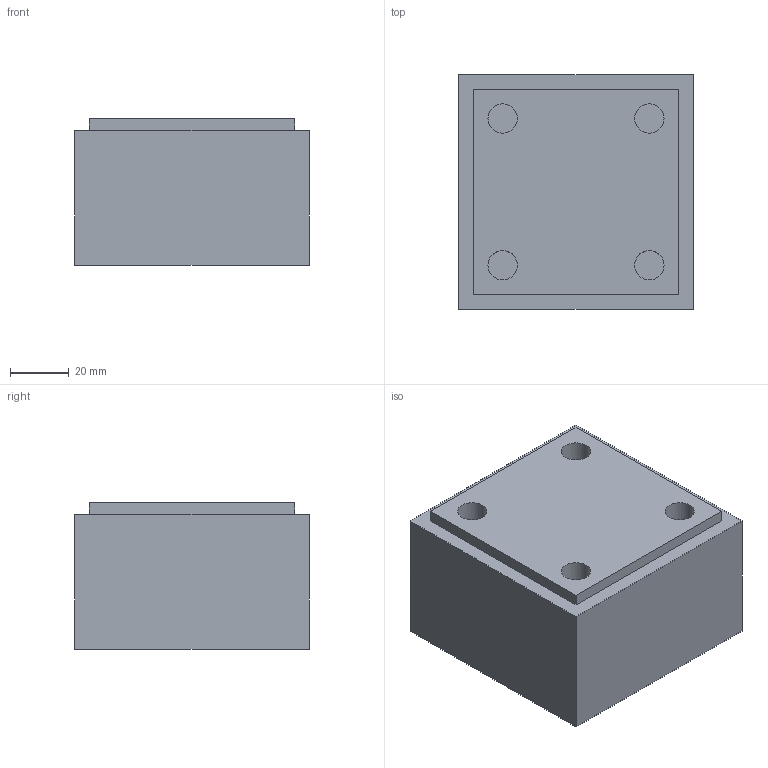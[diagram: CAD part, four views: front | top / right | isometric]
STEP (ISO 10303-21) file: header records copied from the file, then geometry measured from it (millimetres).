
FILE_DESCRIPTION(/* description */ (''),/* implementation_level */ '2;1');
FILE_NAME(/* name */ '3.step',/* time_stamp */ '2025-09-02T11:25:56+02:00',/* author */ (''),/* organization */ (''),/* preprocessor_version */ 'ST-DEVELOPER v20.1',/* originating_system */ 'Autodesk Translation Framework v14.10.0.0',/* authorisation */ '');
FILE_SCHEMA (('AUTOMOTIVE_DESIGN { 1 0 10303 214 3 1 1 }'));
Length unit declared in the file: millimetre
Products named in the file (1): Stufe 2
Bounding box: 80 x 80 x 50 mm (x, y, z)
Volume: 311800.9 mm3; surface area: 29519.6 mm2
Topology: 1 solids, 1 shells, 19 faces, 36 edges, 24 vertices
Faces by surface type: plane 15, cylinder 4
Full cylindrical faces by diameter (mm): 10 x4
Entity records: 511 total; most frequent: DIRECTION 84, CARTESIAN_POINT 80, ORIENTED_EDGE 72, EDGE_CURVE 36, LINE 28, VECTOR 28, AXIS2_PLACEMENT_3D 28, EDGE_LOOP 24
